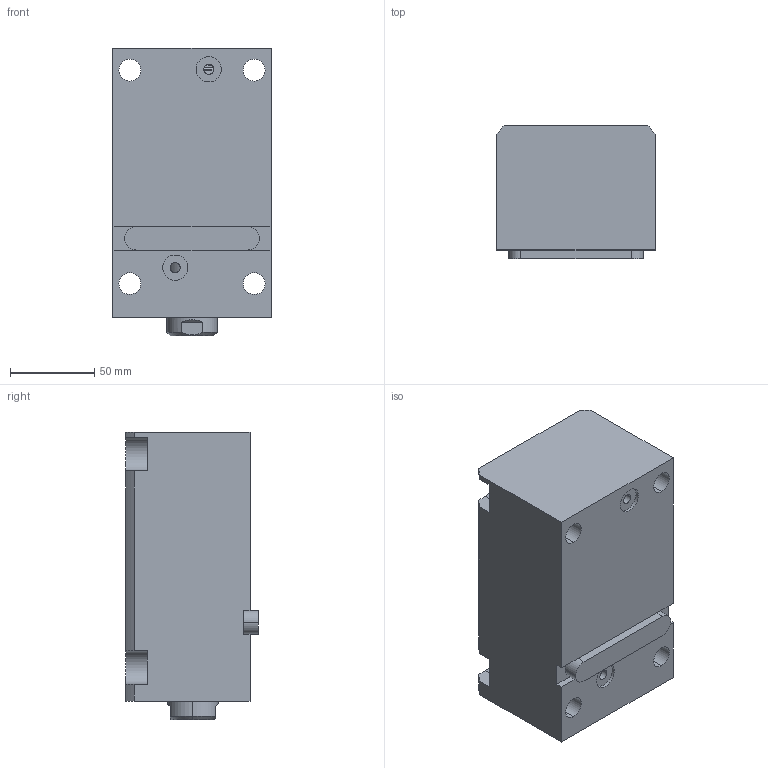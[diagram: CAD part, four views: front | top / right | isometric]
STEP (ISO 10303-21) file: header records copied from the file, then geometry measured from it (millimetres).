
FILE_DESCRIPTION (( 'STEP AP203' ), '1' );
FILE_NAME ('CHTB-LAM50-100N.STEP', '2018-05-23T11:28:12', ( '' ), ( '' ), 'SwSTEP 2.0', 'SolidWorks 2015', '' );
FILE_SCHEMA (( 'CONFIG_CONTROL_DESIGN' ));
Length unit declared in the file: millimetre
Products named in the file (4): CHTB-LAM50-100N; CHTM-SDMA50QG; 活塞杆LA50-100N; 掛极LAM50-100N
Assembly tree (3 placements, depth 2):
  CHTB-LAM50-100N
    掛极LAM50-100N
    活塞杆LA50-100N
    CHTM-SDMA50QG
Bounding box: 94 x 79 x 171 mm (x, y, z)
Volume: 931564.5 mm3; surface area: 141315.4 mm2
Topology: 3 solids, 3 shells, 192 faces, 524 edges, 347 vertices
Faces by surface type: cylinder 96, plane 51, torus 16, cone 15, bspline 14
Entity records: 11011 total; most frequent: CARTESIAN_POINT 5956, ORIENTED_EDGE 1036, DIRECTION 908, EDGE_CURVE 518, AXIS2_PLACEMENT_3D 356, VERTEX_POINT 347, EDGE_LOOP 221, LINE 196
